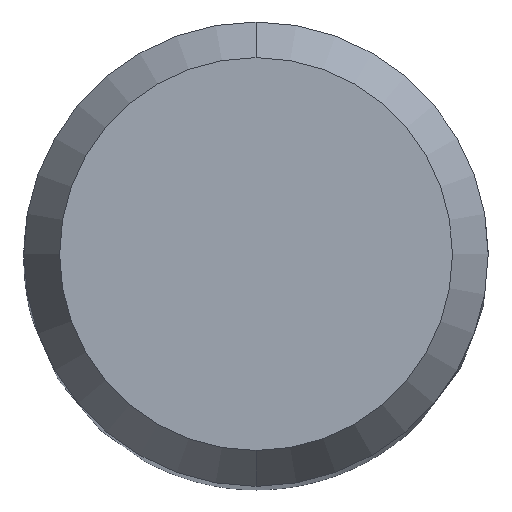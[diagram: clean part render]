
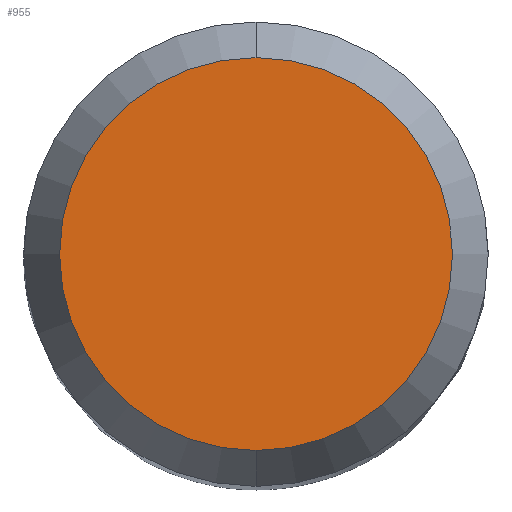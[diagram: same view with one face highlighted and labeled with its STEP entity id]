
A CAD part, top view. The second image highlights one B-rep face of the part: STEP entity #955.
In plain terms, the highlighted planar face has unit normal (0, 0, 1).
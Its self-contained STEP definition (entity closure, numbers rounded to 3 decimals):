
#605=VERTEX_POINT('',#1434);
#643=EDGE_CURVE('',#1127,#605,#1474,.T.);
#955=ADVANCED_FACE('',(#1818),#1819,.T.);
#1001=EDGE_CURVE('',#605,#1127,#1870,.T.);
#1127=VERTEX_POINT('',#2006);
#1434=CARTESIAN_POINT('',(0.,-2.538,0.0));
#1474=CIRCLE('',#2949,2.538);
#1818=FACE_OUTER_BOUND('',#4770,.T.);
#1819=PLANE('',#4771);
#1870=CIRCLE('',#5007,2.538);
#2006=CARTESIAN_POINT('',(0.0,2.538,0.0));
#2949=AXIS2_PLACEMENT_3D('',#6359,#6360,#6361);
#4770=EDGE_LOOP('',(#6777,#6778));
#4771=AXIS2_PLACEMENT_3D('',#6779,#6780,#6781);
#5007=AXIS2_PLACEMENT_3D('',#6855,#6856,#6857);
#6359=CARTESIAN_POINT('',(0.0,0.0,0.0));
#6360=DIRECTION('',(0.0,0.0,-1.0));
#6361=DIRECTION('',(0.0,1.0,0.0));
#6777=ORIENTED_EDGE('',*,*,#643,.F.);
#6778=ORIENTED_EDGE('',*,*,#1001,.F.);
#6779=CARTESIAN_POINT('',(0.0,1.269,0.0));
#6780=DIRECTION('',(-0.0,0.0,1.0));
#6781=DIRECTION('',(0.0,-1.0,0.0));
#6855=CARTESIAN_POINT('',(0.0,0.0,0.0));
#6856=DIRECTION('',(0.0,0.0,-1.0));
#6857=DIRECTION('',(0.0,1.0,0.0));
